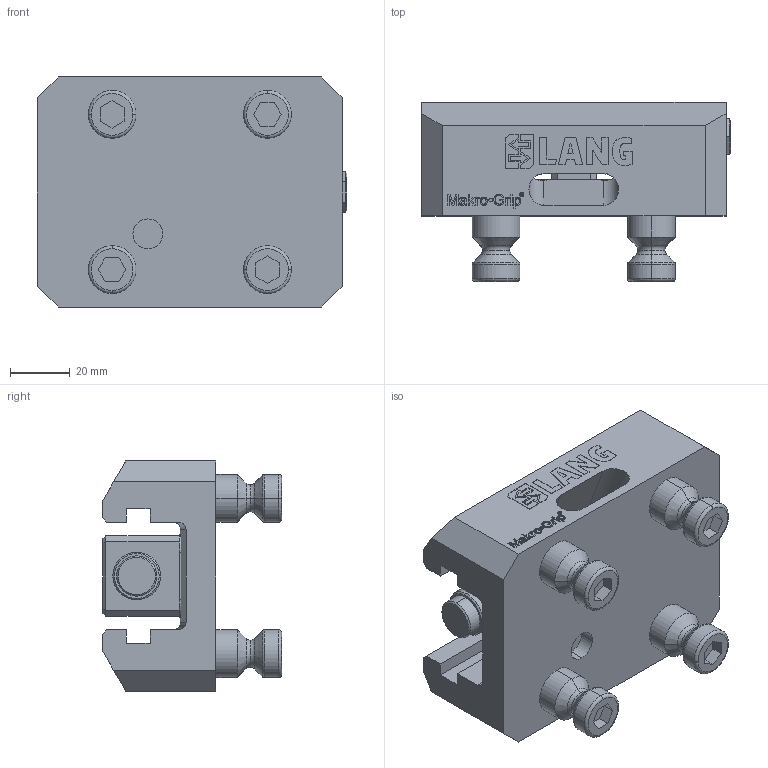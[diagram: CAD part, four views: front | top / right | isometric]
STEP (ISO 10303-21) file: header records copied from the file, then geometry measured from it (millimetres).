
FILE_DESCRIPTION (( 'STEP AP214' ), '1' );
FILE_NAME ('40085-46.STEP', '2024-12-11T08:21:53', ( '' ), ( '' ), 'SwSTEP 2.0', 'SolidWorks 2021', '' );
FILE_SCHEMA (( 'AUTOMOTIVE_DESIGN' ));
Length unit declared in the file: millimetre
Products named in the file (1): 40085-46
Bounding box: 103.5 x 60 x 77.2 mm (x, y, z)
Volume: 203558.7 mm3; surface area: 53798.7 mm2
Topology: 48 solids, 48 shells, 859 faces, 2140 edges, 1390 vertices
Faces by surface type: plane 529, bspline 192, cylinder 68, cone 38, torus 32
Entity records: 43066 total; most frequent: CARTESIAN_POINT 13914, ORIENTED_EDGE 4264, DIRECTION 3246, EDGE_CURVE 2132, VECTOR 1522, LINE 1522, VERTEX_POINT 1390, UNCERTAINTY_MEASURE_WITH_UNIT 909
